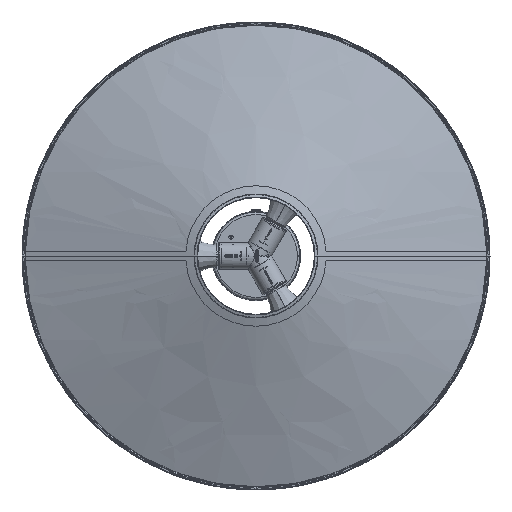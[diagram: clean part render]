
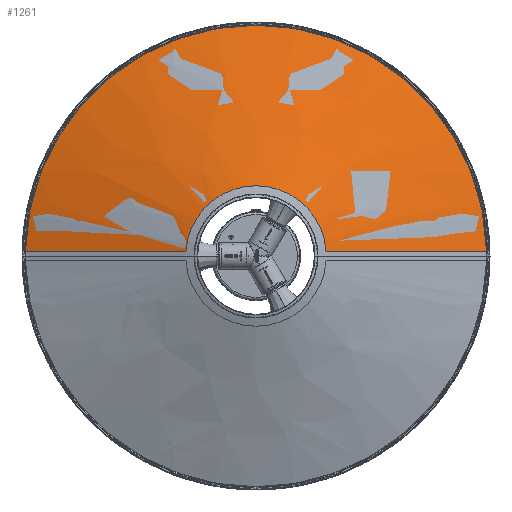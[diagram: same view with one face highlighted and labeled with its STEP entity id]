
A CAD part, front view. The second image highlights one B-rep face of the part: STEP entity #1261.
In plain terms, the highlighted free-form (B-spline) face has degree [2, 1] with [9, 2] control points.
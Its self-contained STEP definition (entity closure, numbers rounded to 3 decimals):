
#1261=ADVANCED_FACE('',(#4969),#60478,.T.);
#4969=FACE_OUTER_BOUND('',#8725,.T.);
#8725=EDGE_LOOP('',(#14270,#14271,#14272,#14273));
#14270=ORIENTED_EDGE('',*,*,#33398,.F.);
#14271=ORIENTED_EDGE('',*,*,#33400,.T.);
#14272=ORIENTED_EDGE('',*,*,#33402,.T.);
#14273=ORIENTED_EDGE('',*,*,#33390,.F.);
#33390=EDGE_CURVE('',#54470,#54472,#42898,.T.);
#33398=EDGE_CURVE('',#54477,#54470,#45488,.T.);
#33400=EDGE_CURVE('',#54477,#54478,#42901,.T.);
#33402=EDGE_CURVE('',#54478,#54472,#45491,.T.);
#42898=TRIMMED_CURVE($,#44109,(#89504),(#89505),.T.,.CARTESIAN.);
#42901=TRIMMED_CURVE($,#44112,(#89545),(#89546),.T.,.CARTESIAN.);
#44109=CIRCLE('',#67757,374.5);
#44112=CIRCLE('',#67760,112.6);
#45488=B_SPLINE_CURVE_WITH_KNOTS('',3,(#89531,#89532,#89533,#89534,#89535,
#89536,#89537,#89538,#89539,#89540,#89541),.UNSPECIFIED.,.F.,.F.,(4,1,1,
1,1,1,1,1,4),(-277.514,-242.825,-208.136,-173.446,
-138.757,-104.068,-69.379,-34.689,
0.),.UNSPECIFIED.);
#45491=B_SPLINE_CURVE_WITH_KNOTS('',3,(#89558,#89559,#89560,#89561,#89562,
#89563,#89564,#89565,#89566,#89567,#89568),.UNSPECIFIED.,.F.,.F.,(4,1,1,
1,1,1,1,1,4),(0.,34.689,69.379,104.068,138.757,
173.446,208.136,242.825,277.514),
 .UNSPECIFIED.);
#54470=VERTEX_POINT('',#89469);
#54472=VERTEX_POINT('',#89471);
#54477=VERTEX_POINT('',#89476);
#54478=VERTEX_POINT('',#89477);
#60478=(
BOUNDED_SURFACE()
B_SPLINE_SURFACE(2,1,((#89370,#89371),(#89372,#89373),(#89374,#89375),(#89376,
#89377),(#89378,#89379),(#89380,#89381),(#89382,#89383),(#89384,#89385),
(#89386,#89387)),.UNSPECIFIED.,.T.,.F.,.F.)
B_SPLINE_SURFACE_WITH_KNOTS((3,2,2,2,3),(2,2),(0.,654.418,1308.836,
1963.253,2617.671),(0.,441.273),.UNSPECIFIED.)
GEOMETRIC_REPRESENTATION_ITEM()
RATIONAL_B_SPLINE_SURFACE(((1.,1.),(0.707,0.707),
(1.,1.),(0.707,0.707),(1.,1.),(0.707,
0.707),(1.,1.),(0.707,0.707),(1.,1.)))
REPRESENTATION_ITEM('')
SURFACE()
);
#67757=AXIS2_PLACEMENT_3D($,#89503,#72894,#72895);
#67760=AXIS2_PLACEMENT_3D($,#89544,#72900,#72901);
#72894=DIRECTION('',(0.,-1.,0.));
#72895=DIRECTION('',(1.,0.,0.02));
#72900=DIRECTION('',(0.,-1.,0.));
#72901=DIRECTION('',(0.998,0.,0.067));
#89370=CARTESIAN_POINT('',(0.,132.374,0.));
#89371=CARTESIAN_POINT('',(-416.615,-13.068,0.));
#89372=CARTESIAN_POINT('',(0.,132.374,0.));
#89373=CARTESIAN_POINT('',(-416.615,-13.068,-416.615));
#89374=CARTESIAN_POINT('',(0.,132.374,0.));
#89375=CARTESIAN_POINT('',(0.,-13.068,-416.615));
#89376=CARTESIAN_POINT('',(0.,132.374,0.));
#89377=CARTESIAN_POINT('',(416.615,-13.068,-416.615));
#89378=CARTESIAN_POINT('',(0.,132.374,0.));
#89379=CARTESIAN_POINT('',(416.615,-13.068,0.));
#89380=CARTESIAN_POINT('',(0.,132.374,0.));
#89381=CARTESIAN_POINT('',(416.615,-13.068,416.615));
#89382=CARTESIAN_POINT('',(0.,132.374,0.));
#89383=CARTESIAN_POINT('',(0.,-13.068,416.615));
#89384=CARTESIAN_POINT('',(0.,132.374,0.));
#89385=CARTESIAN_POINT('',(-416.615,-13.068,416.615));
#89386=CARTESIAN_POINT('',(0.,132.374,0.));
#89387=CARTESIAN_POINT('',(-416.615,-13.068,0.));
#89469=CARTESIAN_POINT('',(374.425,1.794,7.5));
#89471=CARTESIAN_POINT('',(-374.425,1.794,7.5));
#89476=CARTESIAN_POINT('',(112.35,93.065,7.5));
#89477=CARTESIAN_POINT('',(-112.35,93.065,7.5));
#89503=CARTESIAN_POINT('',(0.,1.794,0.));
#89504=CARTESIAN_POINT('',(374.425,1.794,7.5));
#89505=CARTESIAN_POINT('',(-374.425,1.794,7.5));
#89531=CARTESIAN_POINT('',(112.35,93.065,7.5));
#89532=CARTESIAN_POINT('',(122.808,89.422,7.5));
#89533=CARTESIAN_POINT('',(143.626,82.166,7.5));
#89534=CARTESIAN_POINT('',(174.371,71.445,7.5));
#89535=CARTESIAN_POINT('',(205.193,60.692,7.5));
#89536=CARTESIAN_POINT('',(236.454,49.787,7.5));
#89537=CARTESIAN_POINT('',(268.557,38.578,7.5));
#89538=CARTESIAN_POINT('',(301.925,26.958,7.5));
#89539=CARTESIAN_POINT('',(336.869,14.669,7.5));
#89540=CARTESIAN_POINT('',(361.709,6.232,7.5));
#89541=CARTESIAN_POINT('',(374.425,1.794,7.5));
#89544=CARTESIAN_POINT('',(0.,93.065,0.));
#89545=CARTESIAN_POINT('',(112.35,93.065,7.5));
#89546=CARTESIAN_POINT('',(-112.35,93.065,7.5));
#89558=CARTESIAN_POINT('',(-112.35,93.065,7.5));
#89559=CARTESIAN_POINT('',(-122.815,89.419,7.5));
#89560=CARTESIAN_POINT('',(-143.649,82.158,7.5));
#89561=CARTESIAN_POINT('',(-174.429,71.424,7.5));
#89562=CARTESIAN_POINT('',(-205.287,60.66,7.5));
#89563=CARTESIAN_POINT('',(-236.576,49.745,7.5));
#89564=CARTESIAN_POINT('',(-268.692,38.531,7.5));
#89565=CARTESIAN_POINT('',(-302.051,26.915,7.5));
#89566=CARTESIAN_POINT('',(-336.954,14.639,7.5));
#89567=CARTESIAN_POINT('',(-361.742,6.221,7.5));
#89568=CARTESIAN_POINT('',(-374.425,1.794,7.5));
